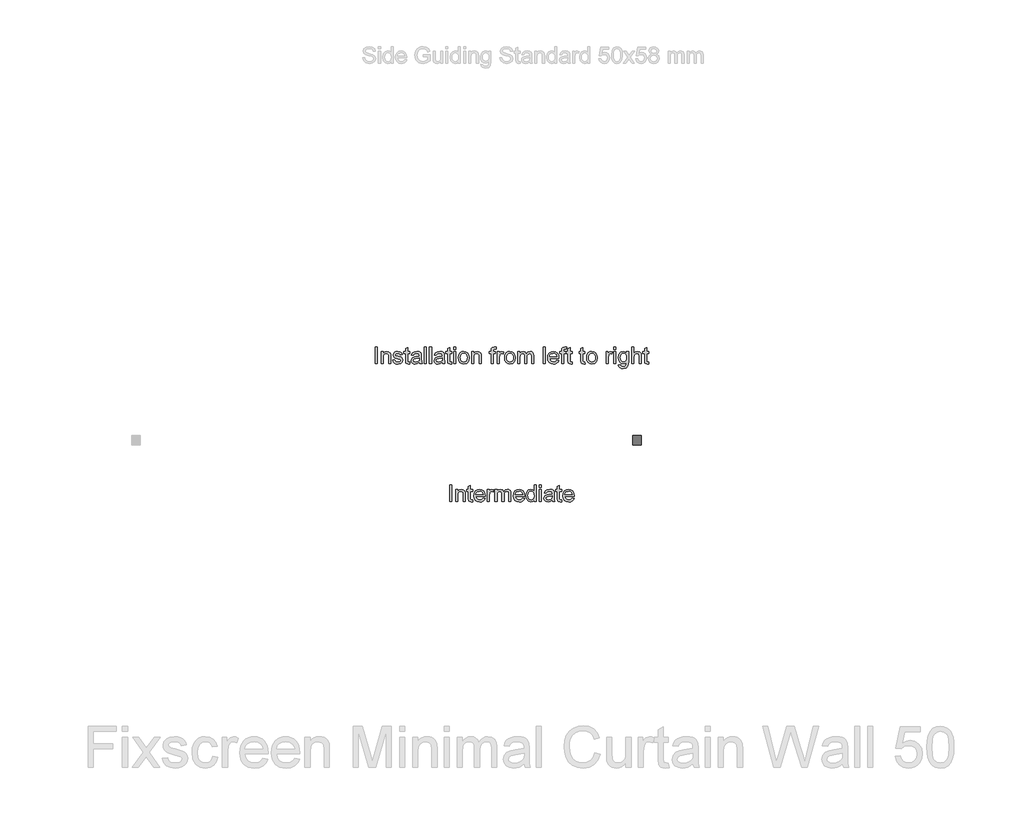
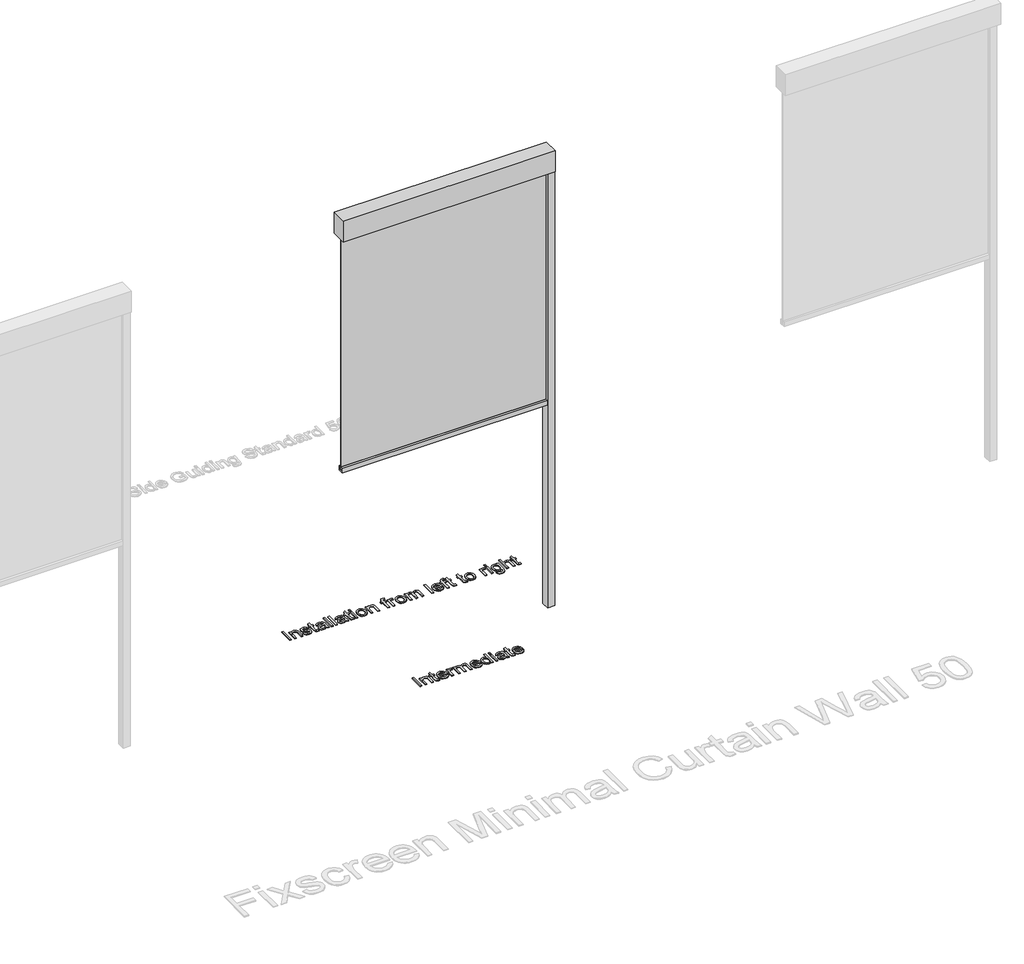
# One storey, part 3 of 8: 3 proxies.
"""IFC4 building model written with IfcOpenShell, lengths in millimetres."""

from ifc_helpers import new_model, si_unit, origin, origin_with_axes, place, context, project, spatial, polyline, outline, extrude, transform, mapped, element, save
from components import generic_models_db297607

model = new_model("IFC4")

# Units and contexts
model_context = context("Model", 3, world=origin())
ifc_project = project(units=[si_unit("LENGTHUNIT", "METRE", prefix="MILLI")], contexts=[model_context])

# Site, building, storey
site = spatial("IfcSite", under=ifc_project)
building = spatial("IfcBuilding", under=site)
storey = spatial("IfcBuildingStorey", under=building, Name="Fixscreen Mini CW50 Overview Top", Elevation=0.0)

# Proxies
placement = place(None, origin())
generic_models_shape = generic_models_db297607(model_context)
element("IfcBuildingElementProxy", 1, Name="Renson_Fixscreen_Minimal_CW50_Middle : For curtain wall - Middle element - Access downwards - Fabric close to the window", ObjectType="Renson_Fixscreen_Minimal_CW50_Middle : For curtain wall - Middle element - Access downwards - Fabric close to the window", at=placement, inside=storey, context=model_context, shape_type="MappedRepresentation", body=[
    mapped(generic_models_shape, transform((-4063.6900961, -2499.9685211, 0.0), x_axis=(1.0, 0.0, 0.0), y_axis=(0.0, 1.0, 0.0), z_axis=(0.0, 0.0, 1.0))),
])
element("IfcBuildingElementProxy", 2, Name="100mm Arial", ObjectType="100mm Arial", at=placement, inside=storey, context=model_context, shape_type="SweptSolid", body=[
    extrude(outline(polyline([(-4699.4591216, -3596.0508109), (-4699.4591216, -3495.5945008), (-4686.9020828, -3495.5945008), (-4686.9020828, -3596.0508109), (-4699.4591216, -3596.0508109)])), origin_with_axes(), (0.0, 0.0, 1.0), 5.0),
    extrude(outline(polyline([(-4663.3576351, -3596.0508109), (-4663.3576351, -3522.2782082), (-4650.8005963, -3522.2782082), (-4650.8005963, -3532.578904), (-4641.1988763, -3523.6761597), (-4628.0900145, -3520.7085783), (-4616.2319515, -3523.0998113), (-4608.1385476, -3529.3783307), (-4604.3738885, -3538.6121687), (-4603.7117009, -3550.7522746), (-4603.7117009, -3596.0508109), (-4616.2687397, -3596.0508109), (-4616.2687397, -3552.4445318), (-4617.7157422, -3541.3344955), (-4622.829302, -3535.4606463), (-4631.4500034, -3533.2656171), (-4645.0738999, -3538.1952358), (-4649.3689222, -3545.3382779), (-4650.8005963, -3556.9081666), (-4650.8005963, -3596.0508109), (-4663.3576351, -3596.0508109)])), origin_with_axes(), (0.0, 0.0, 1.0), 5.0),
    extrude(outline(polyline([(-4559.7620653, -3585.5784368), (-4558.1924354, -3596.4186929), (-4567.585689, -3597.6204408), (-4578.1071141, -3595.5357761), (-4583.3555639, -3590.0665971), (-4584.8761428, -3575.8173012), (-4584.8761428, -3534.8352469), (-4594.2939219, -3534.8352469), (-4594.2939219, -3522.2782082), (-4584.8761428, -3522.2782082), (-4584.8761428, -3504.3500923), (-4572.319104, -3496.9679269), (-4572.319104, -3522.2782082), (-4559.7620653, -3522.2782082), (-4559.7620653, -3534.8352469), (-4572.319104, -3534.8352469), (-4572.319104, -3575.4494192), (-4571.6569164, -3581.9241423), (-4569.5109381, -3584.2172734), (-4565.2312442, -3585.063402), (-4559.7620653, -3585.5784368)])), origin_with_axes(), (0.0, 0.0, 1.0), 5.0),
    extrude(outline(polyline([(-4495.5543944, -3574.0759931), (-4483.2426103, -3575.6456229), (-4487.678654, -3584.9223806), (-4494.7573167, -3591.8569562), (-4504.3191829, -3596.1795696), (-4516.204837, -3597.6204408), (-4530.9385109, -3595.1341716), (-4542.2754077, -3587.6753642), (-4549.504289, -3575.7283964), (-4551.913916, -3559.7776462), (-4549.4797635, -3543.2904014), (-4542.1773059, -3530.9602232), (-4530.9936932, -3523.2714895), (-4516.9160755, -3520.7085783), (-4503.2768506, -3523.2653582), (-4492.3783465, -3530.9356978), (-4485.2322387, -3543.2413505), (-4482.8502028, -3559.7040698), (-4482.9237792, -3563.0885841), (-4539.3568773, -3563.0885841), (-4537.1833078, -3572.4879691), (-4532.1341274, -3579.3980193), (-4524.8469982, -3583.6470563), (-4515.9595824, -3585.063402), (-4503.6477983, -3582.4391771), (-4495.5543944, -3574.0759931)]), holes=[polyline([(-4539.3568773, -3550.5315454), (-4495.4072416, -3550.5315454), (-4500.4349622, -3539.151729), (-4507.7558139, -3534.7371451), (-4516.9651265, -3533.2656171), (-4532.428433, -3537.9622439), (-4537.2936724, -3543.4528827), (-4539.3568773, -3550.5315454)])]), origin_with_axes(), (0.0, 0.0, 1.0), 5.0),
    extrude(outline(polyline([(-4470.293164, -3596.0508109), (-4470.293164, -3522.2782082), (-4459.3057551, -3522.2782082), (-4459.3057551, -3533.1920407), (-4451.5066568, -3523.1365995), (-4443.6585076, -3520.7085783), (-4431.0524179, -3524.583602), (-4435.2462726, -3535.840791), (-4444.0754405, -3533.2656171), (-4451.175563, -3535.7426892), (-4455.7005115, -3542.6098198), (-4457.7361253, -3557.2760486), (-4457.7361253, -3596.0508109), (-4470.293164, -3596.0508109)])), origin_with_axes(), (0.0, 0.0, 1.0), 5.0),
    extrude(outline(polyline([(-4423.2042686, -3596.0508109), (-4423.2042686, -3522.2782082), (-4410.6472299, -3522.2782082), (-4410.6472299, -3534.418314), (-4402.0142657, -3524.4732374), (-4389.7270071, -3520.7085783), (-4377.1454428, -3524.5468138), (-4370.2292613, -3535.3012308), (-4360.4313375, -3524.3567414), (-4348.0582398, -3520.7085783), (-4338.6190009, -3522.2260915), (-4331.63844, -3526.7786312), (-4327.3250236, -3534.4888247), (-4325.8872182, -3545.4792993), (-4325.8872182, -3596.0508109), (-4338.444257, -3596.0508109), (-4338.444257, -3550.8749019), (-4339.6092166, -3540.390265), (-4343.8275968, -3535.2276544), (-4351.0012957, -3533.2656171), (-4363.349868, -3538.2933377), (-4367.037885, -3544.8355058), (-4368.267224, -3554.4065691), (-4368.267224, -3596.0508109), (-4380.8242628, -3596.0508109), (-4380.8242628, -3549.4769503), (-4383.7305306, -3537.312319), (-4393.2586742, -3533.2656171), (-4402.553826, -3535.9634184), (-4408.7342435, -3543.8606185), (-4410.6472299, -3558.8456785), (-4410.6472299, -3596.0508109), (-4423.2042686, -3596.0508109)])), origin_with_axes(), (0.0, 0.0, 1.0), 5.0),
    extrude(outline(polyline([(-4255.4010279, -3574.0759931), (-4243.0892438, -3575.6456229), (-4247.5252875, -3584.9223806), (-4254.6039503, -3591.8569562), (-4264.1658164, -3596.1795696), (-4276.0514706, -3597.6204408), (-4290.7851445, -3595.1341716), (-4302.1220413, -3587.6753642), (-4309.3509225, -3575.7283964), (-4311.7605496, -3559.7776462), (-4309.326397, -3543.2904014), (-4302.0239394, -3530.9602232), (-4290.8403268, -3523.2714895), (-4276.7627091, -3520.7085783), (-4263.1234841, -3523.2653582), (-4252.22498, -3530.9356978), (-4245.0788723, -3543.2413505), (-4242.6968363, -3559.7040698), (-4242.7704127, -3563.0885841), (-4299.2035108, -3563.0885841), (-4297.0299413, -3572.4879691), (-4291.980761, -3579.3980193), (-4284.6936318, -3583.6470563), (-4275.8062159, -3585.063402), (-4263.4944318, -3582.4391771), (-4255.4010279, -3574.0759931)]), holes=[polyline([(-4299.2035108, -3550.5315454), (-4255.2538751, -3550.5315454), (-4260.2815957, -3539.151729), (-4267.6024474, -3534.7371451), (-4276.81176, -3533.2656171), (-4292.2750666, -3537.9622439), (-4297.1403059, -3543.4528827), (-4299.2035108, -3550.5315454)])]), origin_with_axes(), (0.0, 0.0, 1.0), 5.0),
    extrude(outline(polyline([(-4184.620532, -3596.0508109), (-4184.620532, -3584.2050107), (-4192.9285338, -3594.2665832), (-4204.4125834, -3597.6204408), (-4219.961729, -3592.7643984), (-4230.949138, -3579.2140783), (-4234.8486871, -3559.2380859), (-4231.2557063, -3539.2498309), (-4220.4890266, -3525.4910442), (-4204.4616343, -3520.7085783), (-4192.8856142, -3524.1298809), (-4184.620532, -3533.0203624), (-4184.620532, -3495.5945008), (-4172.0634933, -3495.5945008), (-4172.0634933, -3596.0508109), (-4184.620532, -3596.0508109)]), holes=[polyline([(-4222.2916483, -3559.189035), (-4220.8753027, -3570.5473916), (-4216.6262656, -3578.6254671), (-4210.4519795, -3583.4539183), (-4203.2598865, -3585.063402), (-4196.0708591, -3583.5274947), (-4190.0529228, -3578.9197727), (-4185.9786297, -3571.1543969), (-4184.620532, -3560.1455282), (-4186.0031552, -3548.1096556), (-4190.1510247, -3539.7648657), (-4196.3222452, -3534.8904292), (-4203.7749213, -3533.2656171), (-4211.0405907, -3534.8260499), (-4216.9941476, -3539.5073483), (-4220.9672732, -3547.5486355), (-4222.2916483, -3559.189035)])]), origin_with_axes(), (0.0, 0.0, 1.0), 5.0),
    extrude(outline(polyline([(-4153.2279351, -3508.1515395), (-4153.2279351, -3495.5945008), (-4140.6708963, -3495.5945008), (-4140.6708963, -3508.1515395), (-4153.2279351, -3508.1515395)])), origin_with_axes(), (0.0, 0.0, 1.0), 5.0),
    extrude(outline(polyline([(-4153.2279351, -3596.0508109), (-4153.2279351, -3522.2782082), (-4140.6708963, -3522.2782082), (-4140.6708963, -3596.0508109), (-4153.2279351, -3596.0508109)])), origin_with_axes(), (0.0, 0.0, 1.0), 5.0),
    extrude(outline(polyline([(-4074.7464428, -3586.6330318), (-4086.9233369, -3595.1433687), (-4100.3755551, -3597.6204408), (-4110.8693891, -3596.1305187), (-4118.6102394, -3591.6607524), (-4123.3835083, -3584.8733296), (-4124.9745979, -3576.4304378), (-4122.5711022, -3566.497624), (-4116.2557946, -3559.2871369), (-4107.4634149, -3555.1668585), (-4096.5986333, -3553.2783976), (-4074.8200192, -3548.9619155), (-4074.7464428, -3546.1660124), (-4078.2045336, -3536.8953861), (-4092.0859475, -3533.2656171), (-4104.7901391, -3535.6813755), (-4110.8479293, -3544.253026), (-4123.404968, -3542.6833961), (-4117.9725772, -3530.420663), (-4107.0342193, -3523.2347013), (-4090.4672667, -3520.7085783), (-4075.2492149, -3522.9403957), (-4066.6530389, -3528.5444648), (-4062.8025407, -3537.0670644), (-4062.189404, -3548.0544733), (-4062.189404, -3563.6771953), (-4061.5517419, -3585.4925977), (-4059.0501443, -3596.0508109), (-4071.6071831, -3596.0508109), (-4074.7464428, -3586.6330318)]), holes=[polyline([(-4074.7464428, -3561.5189543), (-4095.004478, -3565.3694525), (-4105.8079459, -3567.4050662), (-4110.7007765, -3570.7160042), (-4112.4175591, -3575.5475211), (-4108.6774255, -3582.3410752), (-4097.7022793, -3585.063402), (-4084.9980877, -3582.0590324), (-4076.806582, -3574.7872316), (-4074.8200192, -3565.0751469), (-4074.7464428, -3561.5189543)])]), origin_with_axes(), (0.0, 0.0, 1.0), 5.0),
    extrude(outline(polyline([(-4018.2397684, -3585.5784368), (-4016.6701385, -3596.4186929), (-4026.0633921, -3597.6204408), (-4036.5848172, -3595.5357761), (-4041.833267, -3590.0665971), (-4043.3538459, -3575.8173012), (-4043.3538459, -3534.8352469), (-4052.771625, -3534.8352469), (-4052.771625, -3522.2782082), (-4043.3538459, -3522.2782082), (-4043.3538459, -3504.3500923), (-4030.7968071, -3496.9679269), (-4030.7968071, -3522.2782082), (-4018.2397684, -3522.2782082), (-4018.2397684, -3534.8352469), (-4030.7968071, -3534.8352469), (-4030.7968071, -3575.4494192), (-4030.1346195, -3581.9241423), (-4027.9886412, -3584.2172734), (-4023.7089473, -3585.063402), (-4018.2397684, -3585.5784368)])), origin_with_axes(), (0.0, 0.0, 1.0), 5.0),
    extrude(outline(polyline([(-3954.0320975, -3574.0759931), (-3941.7203134, -3575.6456229), (-3946.1563571, -3584.9223806), (-3953.2350198, -3591.8569562), (-3962.796886, -3596.1795696), (-3974.6825401, -3597.6204408), (-3989.416214, -3595.1341716), (-4000.7531108, -3587.6753642), (-4007.9819921, -3575.7283964), (-4010.3916191, -3559.7776462), (-4007.9574666, -3543.2904014), (-4000.655009, -3530.9602232), (-3989.4713963, -3523.2714895), (-3975.3937786, -3520.7085783), (-3961.7545537, -3523.2653582), (-3950.8560496, -3530.9356978), (-3943.7099418, -3543.2413505), (-3941.3279059, -3559.7040698), (-3941.4014823, -3563.0885841), (-3997.8345804, -3563.0885841), (-3995.6610109, -3572.4879691), (-3990.6118305, -3579.3980193), (-3983.3247013, -3583.6470563), (-3974.4372855, -3585.063402), (-3962.1255014, -3582.4391771), (-3954.0320975, -3574.0759931)]), holes=[polyline([(-3997.8345804, -3550.5315454), (-3953.8849447, -3550.5315454), (-3958.9126653, -3539.151729), (-3966.233517, -3534.7371451), (-3975.4428296, -3533.2656171), (-3990.9061361, -3537.9622439), (-3995.7713755, -3543.4528827), (-3997.8345804, -3550.5315454)])]), origin_with_axes(), (0.0, 0.0, 1.0), 5.0),
])
element("IfcBuildingElementProxy", 3, Name="100mm Arial", ObjectType="100mm Arial", at=placement, inside=storey, context=model_context, shape_type="SweptSolid", body=[
    extrude(outline(polyline([(-5153.0821471, -2756.0508109), (-5153.0821471, -2655.5945008), (-5140.5251083, -2655.5945008), (-5140.5251083, -2756.0508109), (-5153.0821471, -2756.0508109)])), origin_with_axes(), (0.0, 0.0, 1.0), 5.0),
    extrude(outline(polyline([(-5116.9806606, -2756.0508109), (-5116.9806606, -2682.2782082), (-5104.4236218, -2682.2782082), (-5104.4236218, -2692.578904), (-5094.8219018, -2683.6761597), (-5081.71304, -2680.7085783), (-5069.854977, -2683.0998113), (-5061.7615731, -2689.3783307), (-5057.9969141, -2698.6121687), (-5057.3347265, -2710.7522746), (-5057.3347265, -2756.0508109), (-5069.8917652, -2756.0508109), (-5069.8917652, -2712.4445318), (-5071.3387677, -2701.3344955), (-5076.4523275, -2695.4606463), (-5085.0730289, -2693.2656171), (-5098.6969255, -2698.1952358), (-5102.9919477, -2705.3382779), (-5104.4236218, -2716.9081666), (-5104.4236218, -2756.0508109), (-5116.9806606, -2756.0508109)])), origin_with_axes(), (0.0, 0.0, 1.0), 5.0),
    extrude(outline(polyline([(-5044.7776877, -2734.0759931), (-5032.2206489, -2732.5063632), (-5026.4081134, -2741.8260404), (-5013.0907852, -2745.063402), (-5000.2884917, -2742.0958206), (-4996.1191625, -2735.1305881), (-5000.3130172, -2729.4897309), (-5013.237938, -2725.9090128), (-5032.1470725, -2719.7653835), (-5040.399892, -2712.5916846), (-5043.2080578, -2702.462667), (-5040.9517149, -2693.1062015), (-5034.7958229, -2685.9570281), (-5026.8127836, -2682.24142), (-5016.0093157, -2680.7085783), (-5000.7299501, -2683.1733877), (-4991.0178655, -2689.8443145), (-4986.7013834, -2701.1137663), (-4999.2584222, -2702.6833961), (-5003.9795744, -2695.7549519), (-5015.028297, -2693.2656171), (-5027.0457755, -2695.6445873), (-5030.6510191, -2701.1873427), (-5029.1549656, -2704.8416372), (-5024.4706016, -2707.6130149), (-5013.6548709, -2710.2862907), (-4995.2239829, -2716.1969281), (-4986.6645952, -2722.8923804), (-4983.5621237, -2733.8062129), (-4987.2041554, -2745.8236915), (-4997.7133178, -2754.5424947), (-5013.2624634, -2757.6204408), (-5025.9237354, -2756.13665), (-5035.1637049, -2751.6852779), (-5041.3318597, -2744.3153753), (-5044.7776877, -2734.0759931)])), origin_with_axes(), (0.0, 0.0, 1.0), 5.0),
    extrude(outline(polyline([(-4942.7517477, -2745.5784368), (-4941.1821179, -2756.4186929), (-4950.5753715, -2757.6204408), (-4961.0967965, -2755.5357761), (-4966.3452463, -2750.0665971), (-4967.8658252, -2735.8173012), (-4967.8658252, -2694.8352469), (-4977.2836043, -2694.8352469), (-4977.2836043, -2682.2782082), (-4967.8658252, -2682.2782082), (-4967.8658252, -2664.3500923), (-4955.3087865, -2656.9679269), (-4955.3087865, -2682.2782082), (-4942.7517477, -2682.2782082), (-4942.7517477, -2694.8352469), (-4955.3087865, -2694.8352469), (-4955.3087865, -2735.4494192), (-4954.6465989, -2741.9241423), (-4952.5006206, -2744.2172734), (-4948.2209267, -2745.063402), (-4942.7517477, -2745.5784368)])), origin_with_axes(), (0.0, 0.0, 1.0), 5.0),
    extrude(outline(polyline([(-4883.1058135, -2746.6330318), (-4895.2827076, -2755.1433687), (-4908.7349259, -2757.6204408), (-4919.2287598, -2756.1305187), (-4926.9696101, -2751.6607524), (-4931.742879, -2744.8733296), (-4933.3339686, -2736.4304378), (-4930.9304729, -2726.497624), (-4924.6151653, -2719.2871369), (-4915.8227857, -2715.1668585), (-4904.9580041, -2713.2783976), (-4883.1793899, -2708.9619155), (-4883.1058135, -2706.1660124), (-4886.5639043, -2696.8953861), (-4900.4453183, -2693.2656171), (-4913.1495098, -2695.6813755), (-4919.2073, -2704.253026), (-4931.7643388, -2702.6833961), (-4926.331948, -2690.420663), (-4915.39359, -2683.2347013), (-4898.8266375, -2680.7085783), (-4883.6085856, -2682.9403957), (-4875.0124097, -2688.5444648), (-4871.1619114, -2697.0670644), (-4870.5487748, -2708.0544733), (-4870.5487748, -2723.6771953), (-4869.9111127, -2745.4925977), (-4867.4095151, -2756.0508109), (-4879.9665539, -2756.0508109), (-4883.1058135, -2746.6330318)]), holes=[polyline([(-4883.1058135, -2721.5189543), (-4903.3638487, -2725.3694525), (-4914.1673167, -2727.4050662), (-4919.0601472, -2730.7160042), (-4920.7769299, -2735.5475211), (-4917.0367962, -2742.3410752), (-4906.06165, -2745.063402), (-4893.3574585, -2742.0590324), (-4885.1659527, -2734.7872316), (-4883.1793899, -2725.0751469), (-4883.1058135, -2721.5189543)])]), origin_with_axes(), (0.0, 0.0, 1.0), 5.0),
    extrude(outline(polyline([(-4853.2828465, -2756.0508109), (-4853.2828465, -2655.5945008), (-4840.7258077, -2655.5945008), (-4840.7258077, -2756.0508109), (-4853.2828465, -2756.0508109)])), origin_with_axes(), (0.0, 0.0, 1.0), 5.0),
    extrude(outline(polyline([(-4821.8902495, -2756.0508109), (-4821.8902495, -2655.5945008), (-4809.3332108, -2655.5945008), (-4809.3332108, -2756.0508109), (-4821.8902495, -2756.0508109)])), origin_with_axes(), (0.0, 0.0, 1.0), 5.0),
    extrude(outline(polyline([(-4743.4087572, -2746.6330318), (-4755.5856513, -2755.1433687), (-4769.0378696, -2757.6204408), (-4779.5317035, -2756.1305187), (-4787.2725538, -2751.6607524), (-4792.0458227, -2744.8733296), (-4793.6369123, -2736.4304378), (-4791.2334166, -2726.497624), (-4784.918109, -2719.2871369), (-4776.1257293, -2715.1668585), (-4765.2609478, -2713.2783976), (-4743.4823336, -2708.9619155), (-4743.4087572, -2706.1660124), (-4746.866848, -2696.8953861), (-4760.748262, -2693.2656171), (-4773.4524535, -2695.6813755), (-4779.5102437, -2704.253026), (-4792.0672825, -2702.6833961), (-4786.6348917, -2690.420663), (-4775.6965337, -2683.2347013), (-4759.1295812, -2680.7085783), (-4743.9115293, -2682.9403957), (-4735.3153534, -2688.5444648), (-4731.4648551, -2697.0670644), (-4730.8517185, -2708.0544733), (-4730.8517185, -2723.6771953), (-4730.2140564, -2745.4925977), (-4727.7124588, -2756.0508109), (-4740.2694976, -2756.0508109), (-4743.4087572, -2746.6330318)]), holes=[polyline([(-4743.4087572, -2721.5189543), (-4763.6667924, -2725.3694525), (-4774.4702604, -2727.4050662), (-4779.3630909, -2730.7160042), (-4781.0798736, -2735.5475211), (-4777.3397399, -2742.3410752), (-4766.3645937, -2745.063402), (-4753.6604022, -2742.0590324), (-4745.4688964, -2734.7872316), (-4743.4823336, -2725.0751469), (-4743.4087572, -2721.5189543)])]), origin_with_axes(), (0.0, 0.0, 1.0), 5.0),
    extrude(outline(polyline([(-4686.9020828, -2745.5784368), (-4685.3324529, -2756.4186929), (-4694.7257065, -2757.6204408), (-4705.2471316, -2755.5357761), (-4710.4955814, -2750.0665971), (-4712.0161603, -2735.8173012), (-4712.0161603, -2694.8352469), (-4721.4339394, -2694.8352469), (-4721.4339394, -2682.2782082), (-4712.0161603, -2682.2782082), (-4712.0161603, -2664.3500923), (-4699.4591216, -2656.9679269), (-4699.4591216, -2682.2782082), (-4686.9020828, -2682.2782082), (-4686.9020828, -2694.8352469), (-4699.4591216, -2694.8352469), (-4699.4591216, -2735.4494192), (-4698.796934, -2741.9241423), (-4696.6509557, -2744.2172734), (-4692.3712618, -2745.063402), (-4686.9020828, -2745.5784368)])), origin_with_axes(), (0.0, 0.0, 1.0), 5.0),
    extrude(outline(polyline([(-4674.345044, -2668.1515395), (-4674.345044, -2655.5945008), (-4661.7880052, -2655.5945008), (-4661.7880052, -2668.1515395), (-4674.345044, -2668.1515395)])), origin_with_axes(), (0.0, 0.0, 1.0), 5.0),
    extrude(outline(polyline([(-4674.345044, -2756.0508109), (-4674.345044, -2682.2782082), (-4661.7880052, -2682.2782082), (-4661.7880052, -2756.0508109), (-4674.345044, -2756.0508109)])), origin_with_axes(), (0.0, 0.0, 1.0), 5.0),
    extrude(outline(polyline([(-4646.0917068, -2719.1645095), (-4643.3755114, -2701.3774151), (-4635.2269252, -2688.8755586), (-4625.1592213, -2682.7503234), (-4613.1049546, -2680.7085783), (-4599.9133193, -2683.1948475), (-4589.3765659, -2690.6536549), (-4582.4695814, -2702.4963895), (-4580.1672533, -2718.1344399), (-4584.2384807, -2740.4771398), (-4596.0965436, -2753.1200177), (-4613.1049546, -2757.6204408), (-4626.4560053, -2755.1433687), (-4636.980496, -2747.7121524), (-4643.8139041, -2735.6210975), (-4646.0917068, -2719.1645095)]), holes=[polyline([(-4633.534668, -2719.1399841), (-4632.0815341, -2730.504472), (-4627.7221325, -2738.6009416), (-4621.1615702, -2743.4477869), (-4613.1049546, -2745.063402), (-4605.0851271, -2743.4385898), (-4598.5368275, -2738.5641534), (-4594.1774259, -2730.3603849), (-4592.724292, -2718.7475766), (-4594.186623, -2707.7141824), (-4598.5736157, -2699.7280775), (-4605.1311123, -2694.8812322), (-4613.1049546, -2693.2656171), (-4621.1615702, -2694.8751008), (-4627.7221325, -2699.703552), (-4632.0815341, -2707.7816275), (-4633.534668, -2719.1399841)])]), origin_with_axes(), (0.0, 0.0, 1.0), 5.0),
    extrude(outline(polyline([(-4566.0405846, -2756.0508109), (-4566.0405846, -2682.2782082), (-4553.4835459, -2682.2782082), (-4553.4835459, -2692.578904), (-4543.8818258, -2683.6761597), (-4530.772964, -2680.7085783), (-4518.9149011, -2683.0998113), (-4510.8214972, -2689.3783307), (-4507.0568381, -2698.6121687), (-4506.3946505, -2710.7522746), (-4506.3946505, -2756.0508109), (-4518.9516893, -2756.0508109), (-4518.9516893, -2712.4445318), (-4520.3986918, -2701.3344955), (-4525.5122515, -2695.4606463), (-4534.1329529, -2693.2656171), (-4547.7568495, -2698.1952358), (-4552.0518718, -2705.3382779), (-4553.4835459, -2716.9081666), (-4553.4835459, -2756.0508109), (-4566.0405846, -2756.0508109)])), origin_with_axes(), (0.0, 0.0, 1.0), 5.0),
    extrude(outline(polyline([(-4446.7487163, -2756.0508109), (-4446.7487163, -2694.8352469), (-4457.7361253, -2694.8352469), (-4457.7361253, -2682.2782082), (-4446.7487163, -2682.2782082), (-4446.7487163, -2674.8469918), (-4445.4243412, -2664.3746177), (-4438.998669, -2656.8943505), (-4426.3435283, -2654.0248709), (-4414.8901356, -2655.398297), (-4416.7295455, -2667.1705209), (-4423.9645581, -2666.5819097), (-4431.874021, -2668.6665743), (-4434.1916776, -2676.4411472), (-4434.1916776, -2682.2782082), (-4420.0650089, -2682.2782082), (-4420.0650089, -2694.8352469), (-4434.1916776, -2694.8352469), (-4434.1916776, -2756.0508109), (-4446.7487163, -2756.0508109)])), origin_with_axes(), (0.0, 0.0, 1.0), 5.0),
    extrude(outline(polyline([(-4409.0776, -2756.0508109), (-4409.0776, -2682.2782082), (-4398.0901911, -2682.2782082), (-4398.0901911, -2693.1920407), (-4390.2910928, -2683.1365995), (-4382.4429436, -2680.7085783), (-4369.8368539, -2684.583602), (-4374.0307086, -2695.840791), (-4382.8598765, -2693.2656171), (-4389.959999, -2695.7426892), (-4394.4849476, -2702.6098198), (-4396.5205613, -2717.2760486), (-4396.5205613, -2756.0508109), (-4409.0776, -2756.0508109)])), origin_with_axes(), (0.0, 0.0, 1.0), 5.0),
    extrude(outline(polyline([(-4365.1279643, -2719.1645095), (-4362.4117689, -2701.3774151), (-4354.2631827, -2688.8755586), (-4344.1954788, -2682.7503234), (-4332.1412121, -2680.7085783), (-4318.9495769, -2683.1948475), (-4308.4128234, -2690.6536549), (-4301.505839, -2702.4963895), (-4299.2035108, -2718.1344399), (-4303.2747382, -2740.4771398), (-4315.1328012, -2753.1200177), (-4332.1412121, -2757.6204408), (-4345.4922628, -2755.1433687), (-4356.0167536, -2747.7121524), (-4362.8501617, -2735.6210975), (-4365.1279643, -2719.1645095)]), holes=[polyline([(-4352.5709256, -2719.1399841), (-4351.1177917, -2730.504472), (-4346.75839, -2738.6009416), (-4340.1978278, -2743.4477869), (-4332.1412121, -2745.063402), (-4324.1213846, -2743.4385898), (-4317.5730851, -2738.5641534), (-4313.2136835, -2730.3603849), (-4311.7605496, -2718.7475766), (-4313.2228805, -2707.7141824), (-4317.6098733, -2699.7280775), (-4324.1673699, -2694.8812322), (-4332.1412121, -2693.2656171), (-4340.1978278, -2694.8751008), (-4346.75839, -2699.703552), (-4351.1177917, -2707.7816275), (-4352.5709256, -2719.1399841)])]), origin_with_axes(), (0.0, 0.0, 1.0), 5.0),
    extrude(outline(polyline([(-4285.0768422, -2756.0508109), (-4285.0768422, -2682.2782082), (-4272.5198034, -2682.2782082), (-4272.5198034, -2694.418314), (-4263.8868393, -2684.4732374), (-4251.5995806, -2680.7085783), (-4239.0180164, -2684.5468138), (-4232.1018349, -2695.3012308), (-4222.3039111, -2684.3567414), (-4209.9308133, -2680.7085783), (-4200.4915744, -2682.2260915), (-4193.5110136, -2686.7786312), (-4189.1975972, -2694.4888247), (-4187.7597917, -2705.4792993), (-4187.7597917, -2756.0508109), (-4200.3168305, -2756.0508109), (-4200.3168305, -2710.8749019), (-4201.4817901, -2700.390265), (-4205.7001704, -2695.2276544), (-4212.8738693, -2693.2656171), (-4225.2224416, -2698.2933377), (-4228.9104586, -2704.8355058), (-4230.1397976, -2714.4065691), (-4230.1397976, -2756.0508109), (-4242.6968363, -2756.0508109), (-4242.6968363, -2709.4769503), (-4245.6031041, -2697.312319), (-4255.1312478, -2693.2656171), (-4264.4263995, -2695.9634184), (-4270.606817, -2703.8606185), (-4272.5198034, -2718.8456785), (-4272.5198034, -2756.0508109), (-4285.0768422, -2756.0508109)])), origin_with_axes(), (0.0, 0.0, 1.0), 5.0),
    extrude(outline(polyline([(-4129.6834874, -2756.0508109), (-4129.6834874, -2655.5945008), (-4117.1264487, -2655.5945008), (-4117.1264487, -2756.0508109), (-4129.6834874, -2756.0508109)])), origin_with_axes(), (0.0, 0.0, 1.0), 5.0),
    extrude(outline(polyline([(-4046.6402584, -2734.0759931), (-4034.3284743, -2735.6456229), (-4038.764518, -2744.9223806), (-4045.8431807, -2751.8569562), (-4055.4050469, -2756.1795696), (-4067.290701, -2757.6204408), (-4082.0243749, -2755.1341716), (-4093.3612718, -2747.6753642), (-4100.590153, -2735.7283964), (-4102.99978, -2719.7776462), (-4100.5656275, -2703.2904014), (-4093.2631699, -2690.9602232), (-4082.0795572, -2683.2714895), (-4068.0019396, -2680.7085783), (-4054.3627146, -2683.2653582), (-4043.4642105, -2690.9356978), (-4036.3181027, -2703.2413505), (-4033.9360668, -2719.7040698), (-4034.0096432, -2723.0885841), (-4090.4427413, -2723.0885841), (-4088.2691718, -2732.4879691), (-4083.2199914, -2739.3980193), (-4075.9328622, -2743.6470563), (-4067.0454464, -2745.063402), (-4054.7336623, -2742.4391771), (-4046.6402584, -2734.0759931)]), holes=[polyline([(-4090.4427413, -2710.5315454), (-4046.4931056, -2710.5315454), (-4051.5208262, -2699.151729), (-4058.8416779, -2694.7371451), (-4068.0509905, -2693.2656171), (-4083.514297, -2697.9622439), (-4088.3795364, -2703.4528827), (-4090.4427413, -2710.5315454)])]), origin_with_axes(), (0.0, 0.0, 1.0), 5.0),
    extrude(outline(polyline([(-4018.2397684, -2756.0508109), (-4018.2397684, -2694.8352469), (-4029.2271773, -2694.8352469), (-4029.2271773, -2682.2782082), (-4018.2397684, -2682.2782082), (-4018.2397684, -2674.8469918), (-4016.9153932, -2664.3746177), (-4010.489721, -2656.8943505), (-3997.8345804, -2654.0248709), (-3986.3811876, -2655.398297), (-3988.2205975, -2667.1705209), (-3995.4556101, -2666.5819097), (-4003.365073, -2668.6665743), (-4005.6827296, -2676.4411472), (-4005.6827296, -2682.2782082), (-3991.556061, -2682.2782082), (-3991.556061, -2694.8352469), (-4005.6827296, -2694.8352469), (-4005.6827296, -2756.0508109), (-4018.2397684, -2756.0508109)])), origin_with_axes(), (0.0, 0.0, 1.0), 5.0),
    extrude(outline(polyline([(-3953.8849447, -2745.5784368), (-3952.3153148, -2756.4186929), (-3961.7085684, -2757.6204408), (-3972.2299935, -2755.5357761), (-3977.4784433, -2750.0665971), (-3978.9990222, -2735.8173012), (-3978.9990222, -2694.8352469), (-3988.4168013, -2694.8352469), (-3988.4168013, -2682.2782082), (-3978.9990222, -2682.2782082), (-3978.9990222, -2664.3500923), (-3966.4419834, -2656.9679269), (-3966.4419834, -2682.2782082), (-3953.8849447, -2682.2782082), (-3953.8849447, -2694.8352469), (-3966.4419834, -2694.8352469), (-3966.4419834, -2735.4494192), (-3965.7797958, -2741.9241423), (-3963.6338175, -2744.2172734), (-3959.3541237, -2745.063402), (-3953.8849447, -2745.5784368)])), origin_with_axes(), (0.0, 0.0, 1.0), 5.0),
    extrude(outline(polyline([(-3875.4034524, -2745.5784368), (-3873.8338225, -2756.4186929), (-3883.2270761, -2757.6204408), (-3893.7485012, -2755.5357761), (-3898.996951, -2750.0665971), (-3900.5175299, -2735.8173012), (-3900.5175299, -2694.8352469), (-3909.935309, -2694.8352469), (-3909.935309, -2682.2782082), (-3900.5175299, -2682.2782082), (-3900.5175299, -2664.3500923), (-3887.9604911, -2656.9679269), (-3887.9604911, -2682.2782082), (-3875.4034524, -2682.2782082), (-3875.4034524, -2694.8352469), (-3887.9604911, -2694.8352469), (-3887.9604911, -2735.4494192), (-3887.2983035, -2741.9241423), (-3885.1523252, -2744.2172734), (-3880.8726314, -2745.063402), (-3875.4034524, -2745.5784368)])), origin_with_axes(), (0.0, 0.0, 1.0), 5.0),
    extrude(outline(polyline([(-3865.9856733, -2719.1645095), (-3863.2694779, -2701.3774151), (-3855.1208917, -2688.8755586), (-3845.0531878, -2682.7503234), (-3832.998921, -2680.7085783), (-3819.8072858, -2683.1948475), (-3809.2705324, -2690.6536549), (-3802.3635479, -2702.4963895), (-3800.0612197, -2718.1344399), (-3804.1324472, -2740.4771398), (-3815.9905101, -2753.1200177), (-3832.998921, -2757.6204408), (-3846.3499718, -2755.1433687), (-3856.8744625, -2747.7121524), (-3863.7078706, -2735.6210975), (-3865.9856733, -2719.1645095)]), holes=[polyline([(-3853.4286345, -2719.1399841), (-3851.9755006, -2730.504472), (-3847.616099, -2738.6009416), (-3841.0555367, -2743.4477869), (-3832.998921, -2745.063402), (-3824.9790936, -2743.4385898), (-3818.430794, -2738.5641534), (-3814.0713924, -2730.3603849), (-3812.6182585, -2718.7475766), (-3814.0805894, -2707.7141824), (-3818.4675822, -2699.7280775), (-3825.0250788, -2694.8812322), (-3832.998921, -2693.2656171), (-3841.0555367, -2694.8751008), (-3847.616099, -2699.703552), (-3851.9755006, -2707.7816275), (-3853.4286345, -2719.1399841)])]), origin_with_axes(), (0.0, 0.0, 1.0), 5.0),
    extrude(outline(polyline([(-3746.693805, -2756.0508109), (-3746.693805, -2682.2782082), (-3735.7063961, -2682.2782082), (-3735.7063961, -2693.1920407), (-3727.9072978, -2683.1365995), (-3720.0591485, -2680.7085783), (-3707.4530588, -2684.583602), (-3711.6469136, -2695.840791), (-3720.4760815, -2693.2656171), (-3727.576204, -2695.7426892), (-3732.1011525, -2702.6098198), (-3734.1367662, -2717.2760486), (-3734.1367662, -2756.0508109), (-3746.693805, -2756.0508109)])), origin_with_axes(), (0.0, 0.0, 1.0), 5.0),
    extrude(outline(polyline([(-3699.6049096, -2756.0508109), (-3699.6049096, -2682.2782082), (-3687.0478708, -2682.2782082), (-3687.0478708, -2756.0508109), (-3699.6049096, -2756.0508109)])), origin_with_axes(), (0.0, 0.0, 1.0), 5.0),
    extrude(outline(polyline([(-3699.6049096, -2668.1515395), (-3699.6049096, -2655.5945008), (-3687.0478708, -2655.5945008), (-3687.0478708, -2668.1515395), (-3699.6049096, -2668.1515395)])), origin_with_axes(), (0.0, 0.0, 1.0), 5.0),
    extrude(outline(polyline([(-3671.3515724, -2762.3293303), (-3658.7945336, -2763.8989601), (-3654.7233062, -2770.5208361), (-3642.5341494, -2773.3167392), (-3629.682805, -2770.1529541), (-3623.5514385, -2761.2747352), (-3622.6930471, -2746.6330318), (-3631.5344778, -2753.6963661), (-3642.3134202, -2756.0508109), (-3655.2598008, -2753.3100901), (-3664.9136375, -2745.0879275), (-3670.919311, -2733.0336608), (-3672.9212022, -2718.7966275), (-3669.3282214, -2699.33567), (-3658.9294237, -2685.5646206), (-3642.9265569, -2680.7085783), (-3631.7245501, -2683.4554305), (-3622.6930471, -2691.6959872), (-3622.6930471, -2682.2782082), (-3610.1360084, -2682.2782082), (-3610.1360084, -2745.9708442), (-3613.5695737, -2770.3614205), (-3624.446618, -2781.7044487), (-3642.7794041, -2785.873778), (-3654.4627231, -2784.4053157), (-3663.6628387, -2779.9999288), (-3669.564279, -2772.6453546), (-3671.3515724, -2762.3293303)]), holes=[polyline([(-3660.3641634, -2717.9382362), (-3659.0244598, -2729.4560083), (-3655.005349, -2737.3746683), (-3648.9628873, -2741.9639962), (-3641.5531308, -2743.4937721), (-3634.1985565, -2741.9731932), (-3628.1254379, -2737.4114565), (-3624.0511448, -2729.5939641), (-3622.6930471, -2718.3061182), (-3624.0909987, -2707.4198768), (-3628.2848535, -2699.5809247), (-3634.4468769, -2694.844444), (-3641.7493345, -2693.2656171), (-3648.9199677, -2694.8199185), (-3654.9317726, -2699.4828228), (-3659.0060657, -2707.205279), (-3660.3641634, -2717.9382362)])]), origin_with_axes(), (0.0, 0.0, 1.0), 5.0),
    extrude(outline(polyline([(-3591.3004502, -2756.0508109), (-3591.3004502, -2655.5945008), (-3578.7434114, -2655.5945008), (-3578.7434114, -2692.5298531), (-3568.951619, -2683.663897), (-3556.8912209, -2680.7085783), (-3542.7890778, -2683.9336771), (-3534.22969, -2692.8486841), (-3531.6545161, -2709.354323), (-3531.6545161, -2756.0508109), (-3544.2115548, -2756.0508109), (-3544.2115548, -2710.6541727), (-3548.2092058, -2697.4104209), (-3559.5399713, -2693.2656171), (-3569.8284044, -2696.0615202), (-3576.695535, -2703.6398893), (-3578.7434114, -2716.8591157), (-3578.7434114, -2756.0508109), (-3591.3004502, -2756.0508109)])), origin_with_axes(), (0.0, 0.0, 1.0), 5.0),
    extrude(outline(polyline([(-3487.7048804, -2745.5784368), (-3486.1352505, -2756.4186929), (-3495.5285041, -2757.6204408), (-3506.0499292, -2755.5357761), (-3511.298379, -2750.0665971), (-3512.8189579, -2735.8173012), (-3512.8189579, -2694.8352469), (-3522.236737, -2694.8352469), (-3522.236737, -2682.2782082), (-3512.8189579, -2682.2782082), (-3512.8189579, -2664.3500923), (-3500.2619191, -2656.9679269), (-3500.2619191, -2682.2782082), (-3487.7048804, -2682.2782082), (-3487.7048804, -2694.8352469), (-3500.2619191, -2694.8352469), (-3500.2619191, -2735.4494192), (-3499.5997316, -2741.9241423), (-3497.4537532, -2744.2172734), (-3493.1740594, -2745.063402), (-3487.7048804, -2745.5784368)])), origin_with_axes(), (0.0, 0.0, 1.0), 5.0),
])

save(model, "model.ifc")
